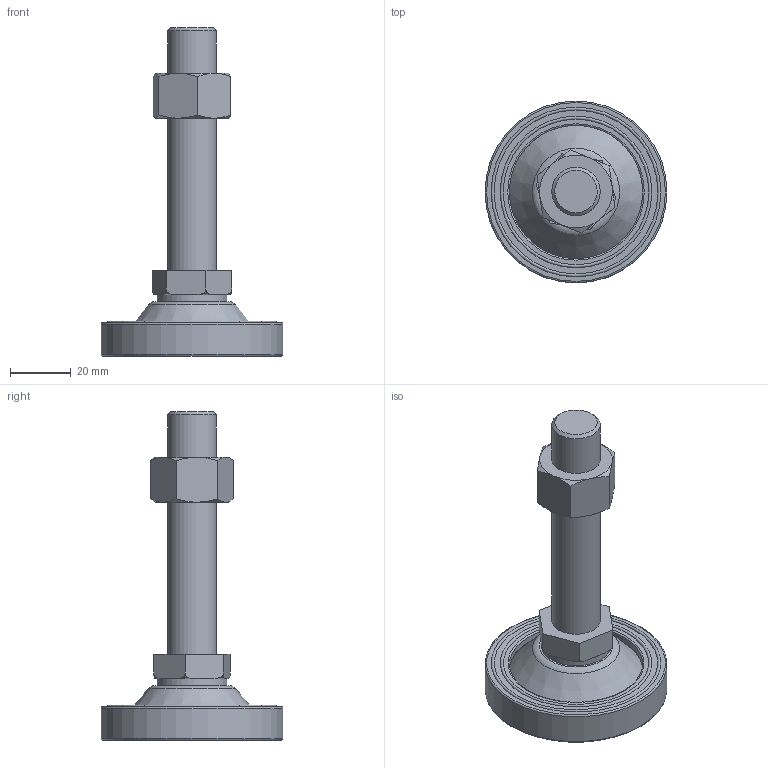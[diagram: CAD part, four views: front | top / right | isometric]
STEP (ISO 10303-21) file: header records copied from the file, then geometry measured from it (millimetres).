
FILE_DESCRIPTION((' '),'2;1');
FILE_NAME('Y:\00. A standard brand\06. 3D Modeling\외부전송용_STEP\LEVELLING FOOT(STEP)\A-PLR SERIES STEP\A-PLR-16-80.stp.stp','2011-11-22T18:39:24',(' '),(' '),' ','ACIS',' ');
FILE_SCHEMA(('CONFIG_CONTROL_DESIGN'));
Length unit declared in the file: millimetre
Products named in the file (1): Y:\00. A standard brand\06. 3D Modeling\외부전송용_STEP\LEVELLING FOOT(STEP)\A-PLR SERIES STEP\A-PLR-16-80.stp.stp
Bounding box: 60 x 60 x 108.31 mm (x, y, z)
Volume: 52805.2 mm3; surface area: 20680.2 mm2
Topology: 3 solids, 4 shells, 114 faces, 253 edges, 157 vertices
Faces by surface type: plane 55, cylinder 20, cone 17, torus 15, bspline 7
Full cylindrical faces by diameter (mm): 8 x1, 12 x2, 16 x3, 19.27 x1, 23 x1, 31 x1, 44 x2, 60 x1
Entity records: 3375 total; most frequent: CARTESIAN_POINT 973, DIRECTION 476, ORIENTED_EDGE 424, EDGE_CURVE 212, AXIS2_PLACEMENT_3D 192, EDGE_LOOP 160, VERTEX_POINT 149, FACE_OUTER_BOUND 114
